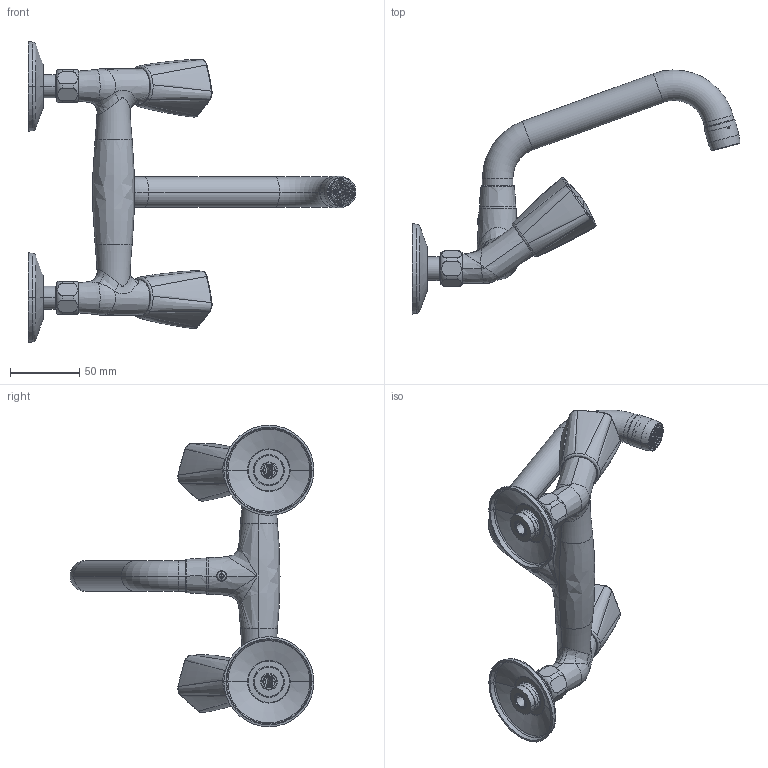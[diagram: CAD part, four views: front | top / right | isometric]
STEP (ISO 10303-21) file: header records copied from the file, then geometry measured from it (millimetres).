
FILE_DESCRIPTION((''),'2;1');
FILE_NAME('500750_ASM','2020-06-08T10:44:45',('LF994'),(''),'CREO PARAMETRIC BY PTC INC, 2018500','CREO PARAMETRIC BY PTC INC, 2018500','');
FILE_SCHEMA(('CONFIG_CONTROL_DESIGN'));
Length unit declared in the file: millimetre
Products named in the file (43): 612723; 607086; 507859_ASM; 607027; 607481; 607482; 603026; 601966; 603712; 601972; 600780; 600777; 600022; 604882; 501546_ASM; 600025; 605331; 600529; 600518; 601939; 606011; 600105_636976; 600639; 504529_536934_ASM; 600716; 504314; 608498; 500424_ASM; 508739_536937_ASM; 616467; 608705; 509581_ASM; 607490_AF0; 606868_AF0; 607489_AF0; 600270; 600271; 504903_AF0_ASM; 607490_AF1; 606868_AF1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
Assembly tree (49 placements, depth 4):
  500750_ASM
    507859_ASM
      612723
      607086  x2
    501546_ASM  x2
      607027
      607481
      607482
      603026
      601966
      603712
      601972
      600780
      600777
      600022
      604882
    600025
    508739_536937_ASM
      605331
      600025
      600529
      600518
      601939  x2
      504529_536934_ASM
        606011
        600105_636976
        600639
      500424_ASM
        600716
        504314
        608498
    509581_ASM  x2
      616467
      608705
    504903_AF0_ASM
      607490_AF0
      606868_AF0
      607489_AF0
      600270
      600271
    504903_AF1_ASM
      607490_AF1
      606868_AF1
      607489_AF1
      600270
      600271
Bounding box: 236.63 x 176 x 217.6 mm (x, y, z)
Volume: 231711.1 mm3; surface area: 170611.6 mm2
Topology: 52 solids, 52 shells, 2451 faces, 6075 edges, 3791 vertices
Faces by surface type: plane 879, cylinder 768, cone 336, torus 286, bspline 174, sphere 6, revolution 2
Entity records: 60497 total; most frequent: CARTESIAN_POINT 23389, DIRECTION 7762, ORIENTED_EDGE 7622, EDGE_CURVE 3811, AXIS2_PLACEMENT_3D 3191, VERTEX_POINT 2380, EDGE_LOOP 1675, CIRCLE 1622
